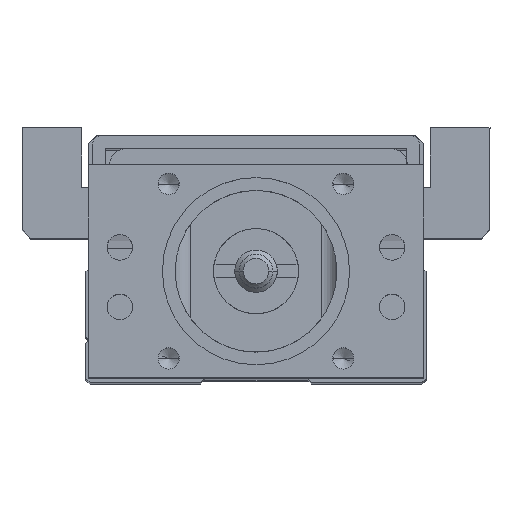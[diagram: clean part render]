
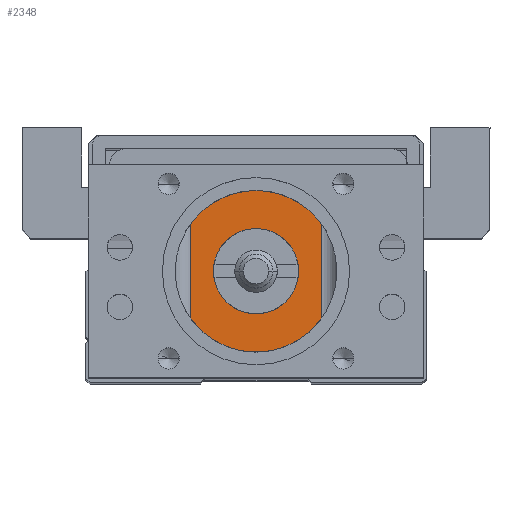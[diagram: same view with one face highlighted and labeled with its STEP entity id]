
A CAD part, top view. The second image highlights one B-rep face of the part: STEP entity #2348.
In plain terms, the highlighted planar face has unit normal (0, 0, 1).
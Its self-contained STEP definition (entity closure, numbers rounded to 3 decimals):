
#2311 = EDGE_LOOP ( 'NONE', ( #2333, #2346, #2341, #2351 ) ) ;
#2330 = VERTEX_POINT ( 'NONE', #6757 ) ;
#2333 = ORIENTED_EDGE ( 'NONE', *, *, #2336, .F. ) ;
#2336 = EDGE_CURVE ( 'NONE', #2343, #2344, #6756, .T. ) ;
#2337 = EDGE_CURVE ( 'NONE', #2343, #2330, #6807, .T. ) ;
#2341 = ORIENTED_EDGE ( 'NONE', *, *, #2349, .T. ) ;
#2342 = VERTEX_POINT ( 'NONE', #6820 ) ;
#2343 = VERTEX_POINT ( 'NONE', #6802 ) ;
#2344 = VERTEX_POINT ( 'NONE', #6798 ) ;
#2345 = EDGE_LOOP ( 'NONE', ( #2353, #2354 ) ) ;
#2346 = ORIENTED_EDGE ( 'NONE', *, *, #2337, .T. ) ;
#2347 = EDGE_CURVE ( 'NONE', #2342, #2344, #6819, .T. ) ;
#2348 = ADVANCED_FACE ( 'NONE', ( #6789, #6811 ), #6755, .F. ) ;
#2349 = EDGE_CURVE ( 'NONE', #2330, #2342, #6848, .T. ) ;
#2351 = ORIENTED_EDGE ( 'NONE', *, *, #2347, .T. ) ;
#2353 = ORIENTED_EDGE ( 'NONE', *, *, #2356, .F. ) ;
#2354 = ORIENTED_EDGE ( 'NONE', *, *, #3011, .F. ) ;
#2356 = EDGE_CURVE ( 'NONE', #3003, #3004, #6839, .T. ) ;
#3003 = VERTEX_POINT ( 'NONE', #8059 ) ;
#3004 = VERTEX_POINT ( 'NONE', #8047 ) ;
#3011 = EDGE_CURVE ( 'NONE', #3004, #3003, #8065, .T. ) ;
#6755 = PLANE ( 'NONE',  #6803 ) ;
#6756 = LINE ( 'NONE', #6810, #6809 ) ;
#6757 = CARTESIAN_POINT ( 'NONE',  ( 7.7, 25.5, 72.5 ) ) ;
#6789 = FACE_OUTER_BOUND ( 'NONE', #2311, .T. ) ;
#6790 = DIRECTION ( 'NONE',  ( -1., 0., 0. ) ) ;
#6791 = DIRECTION ( 'NONE',  ( 0., 0., -1. ) ) ;
#6792 = CARTESIAN_POINT ( 'NONE',  ( -9.7, 0., 72.5 ) ) ;
#6793 = DIRECTION ( 'NONE',  ( 0., -1., 0. ) ) ;
#6794 = VECTOR ( 'NONE', #6793, 1000. ) ;
#6798 = CARTESIAN_POINT ( 'NONE',  ( -7.7, 0.5, 72.5 ) ) ;
#6802 = CARTESIAN_POINT ( 'NONE',  ( 7.7, 0.5, 72.5 ) ) ;
#6803 = AXIS2_PLACEMENT_3D ( 'NONE', #6792, #6791, #6790 ) ;
#6804 = DIRECTION ( 'NONE',  ( 0., 1., 0. ) ) ;
#6805 = VECTOR ( 'NONE', #6804, 1000. ) ;
#6806 = CARTESIAN_POINT ( 'NONE',  ( 7.7, 25.5, 72.5 ) ) ;
#6807 = LINE ( 'NONE', #6806, #6805 ) ;
#6808 = DIRECTION ( 'NONE',  ( -1., 0., 0. ) ) ;
#6809 = VECTOR ( 'NONE', #6808, 1000. ) ;
#6810 = CARTESIAN_POINT ( 'NONE',  ( -6., 0.5, 72.5 ) ) ;
#6811 = FACE_BOUND ( 'NONE', #2345, .T. ) ;
#6818 = CARTESIAN_POINT ( 'NONE',  ( -7.7, 0.5, 72.5 ) ) ;
#6819 = LINE ( 'NONE', #6818, #6794 ) ;
#6820 = CARTESIAN_POINT ( 'NONE',  ( -7.7, 25.5, 72.5 ) ) ;
#6830 = DIRECTION ( 'NONE',  ( -1., 0., 0. ) ) ;
#6831 = DIRECTION ( 'NONE',  ( 0., 0., 1. ) ) ;
#6832 = CARTESIAN_POINT ( 'NONE',  ( 0., 13.05, 72.5 ) ) ;
#6834 = AXIS2_PLACEMENT_3D ( 'NONE', #6832, #6831, #6830 ) ;
#6839 = CIRCLE ( 'NONE', #6834, 5. ) ;
#6840 = DIRECTION ( 'NONE',  ( -1., 0., 0. ) ) ;
#6846 = VECTOR ( 'NONE', #6840, 1000. ) ;
#6847 = CARTESIAN_POINT ( 'NONE',  ( -9.7, 25.5, 72.5 ) ) ;
#6848 = LINE ( 'NONE', #6847, #6846 ) ;
#8047 = CARTESIAN_POINT ( 'NONE',  ( 5., 13.05, 72.5 ) ) ;
#8059 = CARTESIAN_POINT ( 'NONE',  ( -5., 13.05, 72.5 ) ) ;
#8065 = CIRCLE ( 'NONE', #8099, 5. ) ;
#8088 = DIRECTION ( 'NONE',  ( -1., 0., 0. ) ) ;
#8089 = DIRECTION ( 'NONE',  ( 0., 0., 1. ) ) ;
#8090 = CARTESIAN_POINT ( 'NONE',  ( 0., 13.05, 72.5 ) ) ;
#8099 = AXIS2_PLACEMENT_3D ( 'NONE', #8090, #8089, #8088 ) ;
